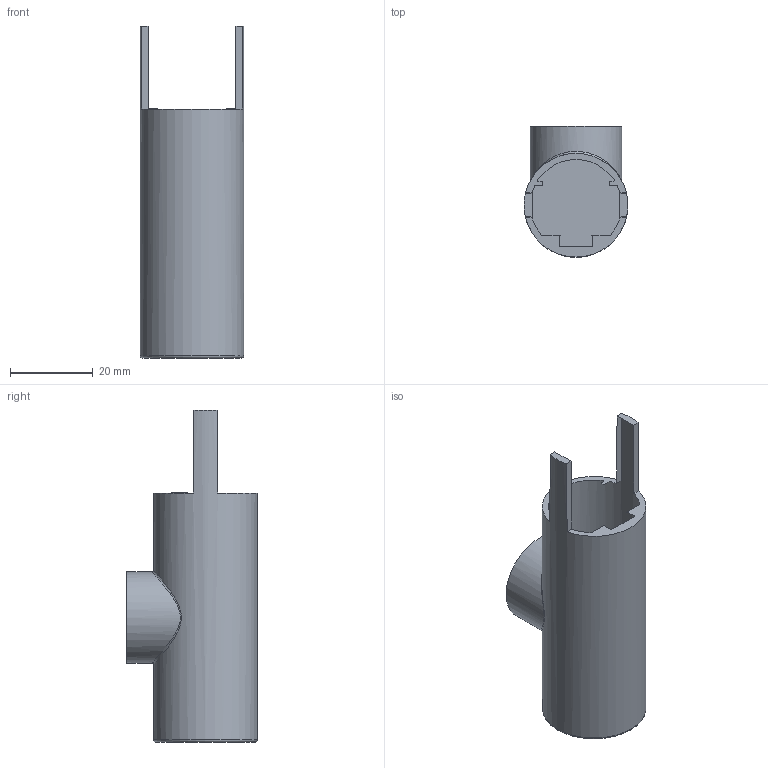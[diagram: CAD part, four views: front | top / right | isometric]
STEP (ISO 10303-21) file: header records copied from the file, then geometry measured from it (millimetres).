
FILE_DESCRIPTION(/* description */ (''),/* implementation_level */ '2;1');
FILE_NAME(/* name */ 'S:\UFFICIO TECNICO 2019\PRODOTTI ROTALIANA\SOUVLAKI\CONFIGURATORE\FILES X CONFIGURATORE\ipt INVENTOR\ASVGT_connettore terminale.stp',/* time_stamp */ '2024-03-13T16:29:01+01:00',/* author */ ('mtesta'),/* organization */ (''),/* preprocessor_version */ 'ST-DEVELOPER v18.1',/* originating_system */ 'Autodesk Inventor 2021',/* authorisation */ '');
FILE_SCHEMA (('AUTOMOTIVE_DESIGN { 1 0 10303 214 3 1 1 }'));
Length unit declared in the file: millimetre
Products named in the file (1): ASVGT_connettore terminale
Bounding box: 25 x 31.5 x 80 mm (x, y, z)
Surface area: 6092.4 mm2 (no closed solid volume)
Topology: 0 solids, 1 shells, 18 faces, 93 edges, 81 vertices
Faces by surface type: plane 13, cylinder 2, bspline 1, cone 1, torus 1
Full cylindrical faces by diameter (mm): 22 x1, 25 x1
Entity records: 1217 total; most frequent: CARTESIAN_POINT 462, DIRECTION 137, ORIENTED_EDGE 127, EDGE_CURVE 89, VERTEX_POINT 73, LINE 47, VECTOR 47, AXIS2_PLACEMENT_3D 45
